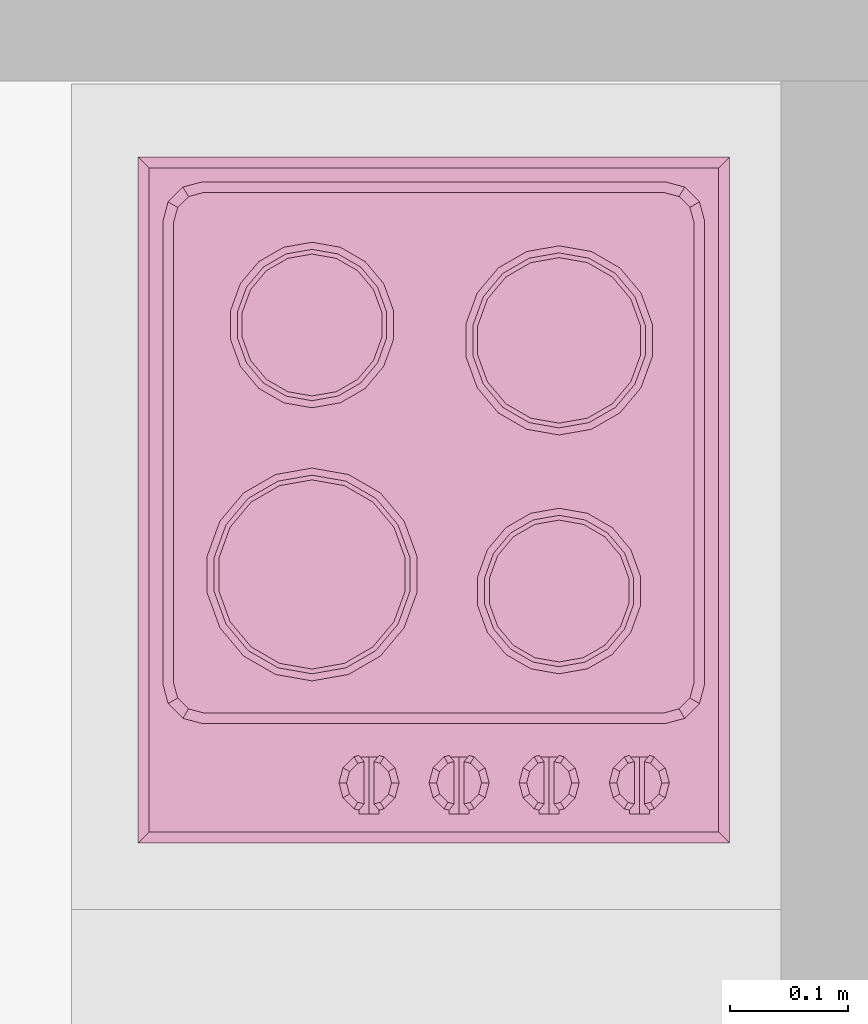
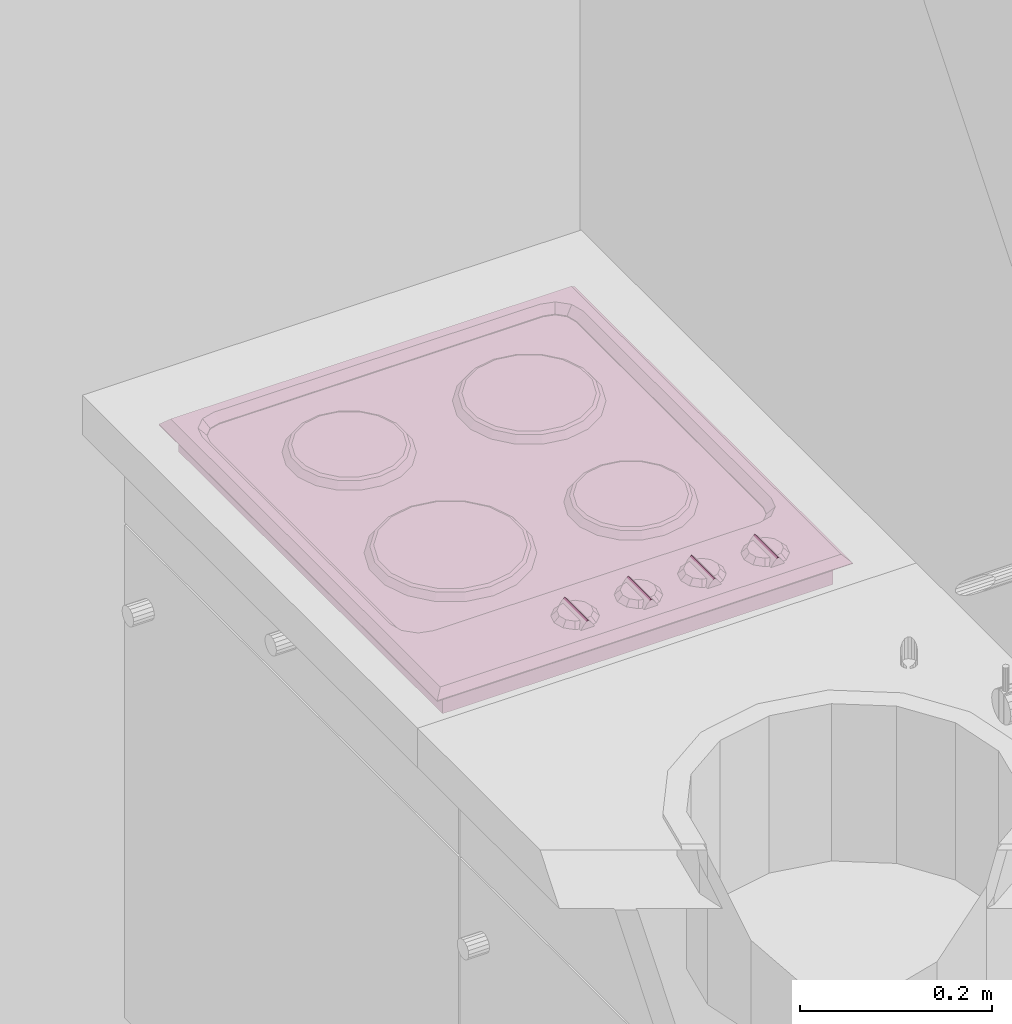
# One storey, part 164 of 172: 1 furnishing.
"""IFC2X3 building model written with IfcOpenShell, lengths in millimetres."""

import ifcopenshell
import ifcopenshell.guid

model = None  # the IFC model being written
_history = None  # IfcOwnerHistory: only IFC2X3 demands one
_inside = {}  # id of a spatial element -> (the spatial element, [elements in it])
_under = {}  # id of a project, library or spatial element -> (it, [spatial elements below it])
_declared = {}  # id of a project -> (the project, [libraries it declares])
_typed = {}  # id of a type object -> (the type object, [elements of that type])
_made_of = {}  # id of a material, layer set ... -> (it, [elements and type objects made of it])


def new_model(schema):
    """Start an empty IFC model of exactly this schema.

    Asked for "IFC4X3", IfcOpenShell would pick the latest addendum, in which some entities
    have other attributes; the version numbers below select the first issue.
    IFC2X3 requires an IfcOwnerHistory on every rooted entity: one is made here for all.
    """
    global model, _history
    if schema == "IFC4X3":
        model = ifcopenshell.file(schema_version=(4, 3, 0, 0))
    else:
        model = ifcopenshell.file(schema=schema)
    _inside.clear()
    _under.clear()
    _declared.clear()
    _typed.clear()
    _made_of.clear()
    _history = None
    if model.schema == "IFC2X3":
        org = make("IfcOrganization", Name="unknown")
        user = make(
            "IfcPersonAndOrganization",
            ThePerson=make("IfcPerson", FamilyName="unknown"),
            TheOrganization=org,
        )
        app = make(
            "IfcApplication",
            ApplicationDeveloper=org,
            Version="unknown",
            ApplicationFullName="unknown",
            ApplicationIdentifier="unknown",
        )
        _history = make(
            "IfcOwnerHistory",
            OwningUser=user,
            OwningApplication=app,
            ChangeAction="ADDED",
            CreationDate=0,
        )
    return model


def make(cls, **values):
    """One entity of the class cls with the attributes given. An attribute that is None is left unset."""
    return model.create_entity(
        cls, **{name: value for name, value in values.items() if value is not None}
    )


def entity(cls, *values):
    """Any entity or typed value of the class cls, its attributes in the order of the schema. None: left unset."""
    e = model.create_entity(cls)
    for i, value in enumerate(values):
        if value is not None:
            e[i] = value
    return e


def rooted(cls, **values):
    """An entity with a GlobalId (a new one), such as an element, a storey or a relation."""
    return make(cls, GlobalId=ifcopenshell.guid.new(), OwnerHistory=_history, **values)


def si_unit(unit_type, name, prefix=None):
    """IfcSIUnit, for example si_unit("LENGTHUNIT", "METRE", prefix="MILLI")."""
    return make("IfcSIUnit", UnitType=unit_type, Prefix=prefix, Name=name)


def converted_unit(unit_type, name, factor, base, dimensions=None, offset=None):
    """IfcConversionBasedUnit, such as the inch: factor (a typed value) times the base unit."""
    return make(
        "IfcConversionBasedUnit"
        if offset is None
        else "IfcConversionBasedUnitWithOffset",
        ConversionOffset=offset,
        Dimensions=None
        if dimensions is None
        else entity("IfcDimensionalExponents", *dimensions),
        UnitType=unit_type,
        Name=name,
        ConversionFactor=make(
            "IfcMeasureWithUnit", ValueComponent=factor, UnitComponent=base
        ),
    )


def money_unit(currency):
    """IfcMonetaryUnit."""
    return make("IfcMonetaryUnit", Currency=currency)


def assignment(units):
    """IfcUnitAssignment: the units of a project."""
    return None if units is None else make("IfcUnitAssignment", Units=units)


def point(xyz):
    """IfcCartesianPoint."""
    return None if xyz is None else make("IfcCartesianPoint", Coordinates=xyz)


def direction(xyz):
    """IfcDirection."""
    return None if xyz is None else make("IfcDirection", DirectionRatios=xyz)


def frame(location, z_axis=None, x_axis=None):
    """IfcAxis2Placement3D, a coordinate frame: its origin and axes. An axis left out is left unset."""
    return make(
        "IfcAxis2Placement3D",
        Location=point(location),
        Axis=direction(z_axis),
        RefDirection=direction(x_axis),
    )


def origin_with_axes():
    """The frame at (0, 0, 0) with the z axis (0, 0, 1) and the x axis (1, 0, 0) written out."""
    return frame((0.0, 0.0, 0.0), z_axis=(0.0, 0.0, 1.0), x_axis=(1.0, 0.0, 0.0))


def place(relative_to, where):
    """IfcLocalPlacement: puts the frame where relative to a parent placement (None: the world)."""
    return make(
        "IfcLocalPlacement", PlacementRelTo=relative_to, RelativePlacement=where
    )


def context(
    kind, dimensions, precision=None, world=None, true_north=None, identifier=None
):
    """IfcGeometricRepresentationContext, for example the 3D "Model" context."""
    return make(
        "IfcGeometricRepresentationContext",
        ContextIdentifier=identifier,
        ContextType=kind,
        CoordinateSpaceDimension=dimensions,
        Precision=precision,
        WorldCoordinateSystem=world,
        TrueNorth=true_north,
    )


def subcontext(parent, identifier, kind, view, scale=None):
    """IfcGeometricRepresentationSubContext, for example "Body" below "Model"."""
    return make(
        "IfcGeometricRepresentationSubContext",
        ContextIdentifier=identifier,
        ContextType=kind,
        ParentContext=parent,
        TargetScale=scale,
        TargetView=view,
    )


def project(units=None, contexts=None):
    """IfcProject with its units and contexts."""
    return rooted(
        "IfcProject",
        Name="project",
        RepresentationContexts=contexts,
        UnitsInContext=assignment(units),
    )


def spatial(cls, under=None, at=None, **own):
    """A site, building, storey or space (cls), placed at a placement, below another one or the project."""
    s = rooted(cls, ObjectPlacement=at, **own)
    if under is not None:
        _under.setdefault(under.id(), (under, []))[1].append(s)
    return s


def faces_of(points, faces, orient=None, outer=None):
    """IfcFace entities. A face is a list of loops; a loop is a list of indices into points, from 0.

    orient and outer hold one flag for each loop. By default every Orientation is true, the
    first loop of a face is its IfcFaceOuterBound and the others are IfcFaceBound.
    """
    made = []
    for i, loops in enumerate(faces):
        bounds = []
        for j, loop in enumerate(loops):
            is_outer = j == 0 if outer is None else outer[i][j]
            bounds.append(
                make(
                    "IfcFaceOuterBound" if is_outer else "IfcFaceBound",
                    Bound=make("IfcPolyLoop", Polygon=[points[k] for k in loop]),
                    Orientation=True if orient is None else orient[i][j],
                )
            )
        made.append(make("IfcFace", Bounds=bounds))
    return made


def faceted_brep(points, faces, orient=None, outer=None, voids=None):
    """IfcFacetedBrep: a solid bounded by flat faces; with voids (closed shells), ...WithVoids."""
    shared = [point(p) for p in points]
    hull = make("IfcClosedShell", CfsFaces=faces_of(shared, faces, orient, outer))
    if voids is None:
        return make("IfcFacetedBrep", Outer=hull)
    return make(
        "IfcFacetedBrepWithVoids",
        Outer=hull,
        Voids=[
            make(cls, CfsFaces=faces_of(shared, fs, o, b)) for cls, fs, o, b in voids
        ],
    )


def shape(context_of_items, identifier, shape_type, items):
    """IfcShapeRepresentation: the items that make up one representation, for example the "Body"."""
    return make(
        "IfcShapeRepresentation",
        ContextOfItems=context_of_items,
        RepresentationIdentifier=identifier,
        RepresentationType=shape_type,
        Items=items,
    )


def source(mapping_origin, context_of_items, identifier, shape_type, items):
    """IfcRepresentationMap: a shape defined once, which mapped items show again and again."""
    return make(
        "IfcRepresentationMap",
        MappingOrigin=mapping_origin,
        MappedRepresentation=shape(context_of_items, identifier, shape_type, items),
    )


def transform(
    local_origin,
    x_axis=None,
    y_axis=None,
    z_axis=None,
    scale=None,
    scale2=None,
    scale3=None,
    uniform=True,
):
    """IfcCartesianTransformationOperator3D, or its non-uniform kind. x_axis, y_axis, z_axis: its Axis1, 2, 3."""
    if uniform:
        return make(
            "IfcCartesianTransformationOperator3D",
            Axis1=direction(x_axis),
            Axis2=direction(y_axis),
            LocalOrigin=point(local_origin),
            Scale=scale,
            Axis3=direction(z_axis),
        )
    return make(
        "IfcCartesianTransformationOperator3DnonUniform",
        Axis1=direction(x_axis),
        Axis2=direction(y_axis),
        LocalOrigin=point(local_origin),
        Scale=scale,
        Axis3=direction(z_axis),
        Scale2=scale2,
        Scale3=scale3,
    )


def mapped(mapping_source, mapping_target):
    """IfcMappedItem: shows the shape of a source again, moved by a transform."""
    return make(
        "IfcMappedItem", MappingSource=mapping_source, MappingTarget=mapping_target
    )


def material(Name=None, Category=None):
    """IfcMaterial."""
    return make("IfcMaterial", Name=Name, Category=Category)


def material_list(materials):
    """IfcMaterialList."""
    return make("IfcMaterialList", Materials=materials)


def made_of(thing, what):
    """Note that an element or type object is made of a material, layer set ...; save() writes the relation."""
    if what is not None:
        _made_of.setdefault(what.id(), (what, []))[1].append(thing)
    return thing


def type_object(cls, material=None, **own):
    """A type object (cls), such as IfcWallType, which elements share."""
    return made_of(rooted(cls, **own), material)


def element(
    cls,
    number,
    at=None,
    inside=None,
    cuts=None,
    type_object=None,
    material=None,
    context=None,
    identifier="Body",
    shape_type=None,
    held_by="IfcProductDefinitionShape",
    body=None,
    shapes=None,
    **own,
):
    """One element of the class cls, such as IfcWall. Its Tag is "e" and its number.

    at: its placement. inside: the storey or other place that contains it. cuts: it is an
    opening in that element (IfcRelVoidsElement). A single representation is given by context,
    identifier, shape_type and body (its items); several are given by shapes. held_by: the class
    of the entity that holds the representations. save() writes the other relations.
    """
    e = rooted(cls, Tag="e%d" % number, ObjectPlacement=at, **own)
    if body is not None:
        shapes = [shape(context, identifier, shape_type, body)]
    if shapes is not None:
        e.Representation = make(held_by, Representations=shapes)
    if inside is not None:
        _inside.setdefault(inside.id(), (inside, []))[1].append(e)
    if cuts is not None:
        rooted(
            "IfcRelVoidsElement", RelatingBuildingElement=cuts, RelatedOpeningElement=e
        )
    if type_object is not None:
        _typed.setdefault(type_object.id(), (type_object, []))[1].append(e)
    return made_of(e, material)


def aggregate(whole, parts):
    """IfcRelAggregates: a whole, such as a stair, and the parts it consists of."""
    return rooted("IfcRelAggregates", RelatingObject=whole, RelatedObjects=parts)


def save(model, path):
    """Write the relations noted so far, then the file.

    IfcRelAggregates (storeys below a building ...), IfcRelContainedInSpatialStructure (elements
    in a storey), IfcRelDefinesByType, IfcRelAssociatesMaterial and IfcRelDeclares: one each for
    every whole, place, type object, material and project.
    """
    for whole, parts in _under.values():
        aggregate(whole, parts)
    for where, things in _inside.values():
        rooted(
            "IfcRelContainedInSpatialStructure",
            RelatedElements=things,
            RelatingStructure=where,
        )
    for kind, things in _typed.values():
        rooted("IfcRelDefinesByType", RelatedObjects=things, RelatingType=kind)
    for what, things in _made_of.values():
        rooted("IfcRelAssociatesMaterial", RelatedObjects=things, RelatingMaterial=what)
    for by, libraries in _declared.values():
        rooted("IfcRelDeclares", RelatingContext=by, RelatedDefinitions=libraries)
    model.write(path)


model = new_model("IFC2X3")

# Units and contexts
model_context = context("Model", 3, precision=1e-05, world=origin_with_axes(), true_north=direction((0.0, 1.0)))
body_context = subcontext(model_context, "Body", "Model", "MODEL_VIEW")
ifc_project = project(units=[si_unit("LENGTHUNIT", "METRE", prefix="MILLI"), si_unit("AREAUNIT", "SQUARE_METRE"), si_unit("VOLUMEUNIT", "CUBIC_METRE"), converted_unit("PLANEANGLEUNIT", "DEGREE", entity("IfcPlaneAngleMeasure", 0.0174532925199), si_unit("PLANEANGLEUNIT", "RADIAN"), dimensions=[0, 0, 0, 0, 0, 0, 0]), si_unit("SOLIDANGLEUNIT", "STERADIAN"), money_unit("USD"), converted_unit("TIMEUNIT", "Year", entity("IfcTimeMeasure", 31556926.0), si_unit("TIMEUNIT", "SECOND"), dimensions=[0, 0, 0, 0, 0, 0, 0]), si_unit("MASSUNIT", "GRAM"), si_unit("THERMODYNAMICTEMPERATUREUNIT", "DEGREE_CELSIUS"), si_unit("LUMINOUSINTENSITYUNIT", "LUMEN")], contexts=[model_context])

# Site, building, storey
site_placement = place(None, origin_with_axes())
site = spatial("IfcSite", under=ifc_project, at=site_placement, Name="Site", CompositionType="ELEMENT")
building_placement = place(site_placement, origin_with_axes())
building = spatial("IfcBuilding", under=site, at=building_placement, Name="Building", CompositionType="ELEMENT")
storey_placement = place(building_placement, frame((0.0, 0.0, 3200.0), z_axis=(0.0, 0.0, 1.0), x_axis=(1.0, 0.0, 0.0)))
storey = spatial("IfcBuildingStorey", under=building, at=storey_placement, Name="3KORRUS", CompositionType="ELEMENT", Elevation=3200.0)

# Furnishing
ifc_material = material(Name="Background")
ifc_material_list = material_list([ifc_material])
furnishing_element_type = type_object("IfcFurnishingElementType", Name="Cooktops Electric 19")
shared_shape = source(origin_with_axes(), body_context, "Body", "Brep", [
    faceted_brep([(-230.175, 116.638, 900.0), (-224.537, 118.691, 908.0), (-229.0, 144.0, 908.0), (-235.0, 144.0, 900.0), (-216.284, 92.577, 900.0), (-211.687, 96.434, 908.0), (-192.0, 79.914, 908.0), (-167.85, 71.124, 908.0), (-142.15, 71.124, 908.0), (-118.0, 79.914, 908.0), (-98.313, 96.434, 908.0), (-85.463, 118.691, 908.0), (-81.0, 144.0, 908.0), (-85.463, 169.309, 908.0), (-98.313, 191.566, 908.0), (-118.0, 208.086, 908.0), (-142.15, 216.876, 908.0), (-167.85, 216.876, 908.0), (-192.0, 208.086, 908.0), (-211.687, 191.566, 908.0), (-224.537, 169.309, 908.0), (-230.175, 171.362, 900.0), (-216.284, 195.423, 900.0), (-195.0, 213.282, 900.0), (-168.892, 222.785, 900.0), (-141.108, 222.785, 900.0), (-115.0, 213.282, 900.0), (-93.716, 195.423, 900.0), (-79.825, 171.362, 900.0), (-75.0, 144.0, 900.0), (-79.825, 116.638, 900.0), (-93.716, 92.577, 900.0), (-115.0, 74.718, 900.0), (-141.108, 65.215, 900.0), (-168.892, 65.215, 900.0), (-195.0, 74.718, 900.0)], [[[0, 1, 2, 3]], [[4, 5, 1, 0]], [[1, 5, 6, 7, 8, 9, 10, 11, 12, 13, 14, 15, 16, 17, 18, 19, 20, 2]], [[3, 2, 20, 21]], [[0, 3, 21, 22, 23, 24, 25, 26, 27, 28, 29, 30, 31, 32, 33, 34, 35, 4]], [[35, 6, 5, 4]], [[34, 7, 6, 35]], [[33, 8, 7, 34]], [[32, 9, 8, 33]], [[31, 10, 9, 32]], [[30, 11, 10, 31]], [[29, 12, 11, 30]], [[28, 13, 12, 29]], [[27, 14, 13, 28]], [[26, 15, 14, 27]], [[25, 16, 15, 26]], [[24, 17, 16, 25]], [[23, 18, 17, 24]], [[22, 19, 18, 23]], [[21, 20, 19, 22]]]),
    faceted_brep([(-224.537, 118.691, 908.0), (-220.778, 120.059, 910.0), (-225.0, 144.0, 910.0), (-229.0, 144.0, 908.0), (-211.687, 96.434, 908.0), (-208.623, 99.005, 910.0), (-190.0, 83.378, 910.0), (-167.155, 75.063, 910.0), (-142.845, 75.063, 910.0), (-120.0, 83.378, 910.0), (-101.377, 99.005, 910.0), (-89.222, 120.059, 910.0), (-85.0, 144.0, 910.0), (-89.222, 167.941, 910.0), (-101.377, 188.995, 910.0), (-120.0, 204.622, 910.0), (-142.845, 212.937, 910.0), (-167.155, 212.937, 910.0), (-190.0, 204.622, 910.0), (-208.623, 188.995, 910.0), (-220.778, 167.941, 910.0), (-224.537, 169.309, 908.0), (-211.687, 191.566, 908.0), (-192.0, 208.086, 908.0), (-167.85, 216.876, 908.0), (-142.15, 216.876, 908.0), (-118.0, 208.086, 908.0), (-98.313, 191.566, 908.0), (-85.463, 169.309, 908.0), (-81.0, 144.0, 908.0), (-85.463, 118.691, 908.0), (-98.313, 96.434, 908.0), (-118.0, 79.914, 908.0), (-142.15, 71.124, 908.0), (-167.85, 71.124, 908.0), (-192.0, 79.914, 908.0)], [[[0, 1, 2, 3]], [[4, 5, 1, 0]], [[1, 5, 6, 7, 8, 9, 10, 11, 12, 13, 14, 15, 16, 17, 18, 19, 20, 2]], [[3, 2, 20, 21]], [[0, 3, 21, 22, 23, 24, 25, 26, 27, 28, 29, 30, 31, 32, 33, 34, 35, 4]], [[35, 6, 5, 4]], [[34, 7, 6, 35]], [[33, 8, 7, 34]], [[32, 9, 8, 33]], [[31, 10, 9, 32]], [[30, 11, 10, 31]], [[29, 12, 11, 30]], [[28, 13, 12, 29]], [[27, 14, 13, 28]], [[26, 15, 14, 27]], [[25, 16, 15, 26]], [[24, 17, 16, 25]], [[23, 18, 17, 24]], [[22, 19, 18, 23]], [[21, 20, 19, 22]]]),
    faceted_brep([(-432.778, 120.059, 900.0), (-427.14, 122.111, 908.0), (-431.0, 144.0, 908.0), (-437.0, 144.0, 900.0), (-420.623, 99.005, 900.0), (-416.027, 102.862, 908.0), (-399.0, 88.574, 908.0), (-378.113, 80.972, 908.0), (-355.887, 80.972, 908.0), (-335.0, 88.574, 908.0), (-317.973, 102.862, 908.0), (-306.86, 122.111, 908.0), (-303.0, 144.0, 908.0), (-306.86, 165.889, 908.0), (-317.973, 185.138, 908.0), (-335.0, 199.426, 908.0), (-355.887, 207.028, 908.0), (-378.113, 207.028, 908.0), (-399.0, 199.426, 908.0), (-416.027, 185.138, 908.0), (-427.14, 165.889, 908.0), (-432.778, 167.941, 900.0), (-420.623, 188.995, 900.0), (-402.0, 204.622, 900.0), (-379.155, 212.937, 900.0), (-354.845, 212.937, 900.0), (-332.0, 204.622, 900.0), (-313.377, 188.995, 900.0), (-301.222, 167.941, 900.0), (-297.0, 144.0, 900.0), (-301.222, 120.059, 900.0), (-313.377, 99.005, 900.0), (-332.0, 83.378, 900.0), (-354.845, 75.063, 900.0), (-379.155, 75.063, 900.0), (-402.0, 83.378, 900.0)], [[[0, 1, 2, 3]], [[4, 5, 1, 0]], [[1, 5, 6, 7, 8, 9, 10, 11, 12, 13, 14, 15, 16, 17, 18, 19, 20, 2]], [[3, 2, 20, 21]], [[0, 3, 21, 22, 23, 24, 25, 26, 27, 28, 29, 30, 31, 32, 33, 34, 35, 4]], [[35, 6, 5, 4]], [[34, 7, 6, 35]], [[33, 8, 7, 34]], [[32, 9, 8, 33]], [[31, 10, 9, 32]], [[30, 11, 10, 31]], [[29, 12, 11, 30]], [[28, 13, 12, 29]], [[27, 14, 13, 28]], [[26, 15, 14, 27]], [[25, 16, 15, 26]], [[24, 17, 16, 25]], [[23, 18, 17, 24]], [[22, 19, 18, 23]], [[21, 20, 19, 22]]]),
    faceted_brep([(-427.14, 122.111, 908.0), (-423.382, 123.479, 910.0), (-427.0, 144.0, 910.0), (-431.0, 144.0, 908.0), (-416.027, 102.862, 908.0), (-412.963, 105.433, 910.0), (-397.0, 92.038, 910.0), (-377.419, 84.912, 910.0), (-356.581, 84.912, 910.0), (-337.0, 92.038, 910.0), (-321.037, 105.433, 910.0), (-310.618, 123.479, 910.0), (-307.0, 144.0, 910.0), (-310.618, 164.521, 910.0), (-321.037, 182.567, 910.0), (-337.0, 195.962, 910.0), (-356.581, 203.088, 910.0), (-377.419, 203.088, 910.0), (-397.0, 195.962, 910.0), (-412.963, 182.567, 910.0), (-423.382, 164.521, 910.0), (-427.14, 165.889, 908.0), (-416.027, 185.138, 908.0), (-399.0, 199.426, 908.0), (-378.113, 207.028, 908.0), (-355.887, 207.028, 908.0), (-335.0, 199.426, 908.0), (-317.973, 185.138, 908.0), (-306.86, 165.889, 908.0), (-303.0, 144.0, 908.0), (-306.86, 122.111, 908.0), (-317.973, 102.862, 908.0), (-335.0, 88.574, 908.0), (-355.887, 80.972, 908.0), (-378.113, 80.972, 908.0), (-399.0, 88.574, 908.0)], [[[0, 1, 2, 3]], [[4, 5, 1, 0]], [[1, 5, 6, 7, 8, 9, 10, 11, 12, 13, 14, 15, 16, 17, 18, 19, 20, 2]], [[3, 2, 20, 21]], [[0, 3, 21, 22, 23, 24, 25, 26, 27, 28, 29, 30, 31, 32, 33, 34, 35, 4]], [[35, 6, 5, 4]], [[34, 7, 6, 35]], [[33, 8, 7, 34]], [[32, 9, 8, 33]], [[31, 10, 9, 32]], [[30, 11, 10, 31]], [[29, 12, 11, 30]], [[28, 13, 12, 29]], [[27, 14, 13, 28]], [[26, 15, 14, 27]], [[25, 16, 15, 26]], [[24, 17, 16, 25]], [[23, 18, 17, 24]], [[22, 19, 18, 23]], [[21, 20, 19, 22]]]),
    faceted_brep([(-437.572, 322.218, 900.0), (-431.934, 324.27, 908.0), (-437.0, 353.0, 908.0), (-443.0, 353.0, 900.0), (-421.944, 295.149, 900.0), (-417.348, 299.006, 908.0), (-395.0, 280.254, 908.0), (-367.586, 270.276, 908.0), (-338.414, 270.276, 908.0), (-311.0, 280.254, 908.0), (-288.652, 299.006, 908.0), (-274.066, 324.27, 908.0), (-269.0, 353.0, 908.0), (-274.066, 381.73, 908.0), (-288.652, 406.994, 908.0), (-311.0, 425.746, 908.0), (-338.414, 435.724, 908.0), (-367.586, 435.724, 908.0), (-395.0, 425.746, 908.0), (-417.348, 406.994, 908.0), (-431.934, 381.73, 908.0), (-437.572, 383.782, 900.0), (-421.944, 410.851, 900.0), (-398.0, 430.942, 900.0), (-368.628, 441.633, 900.0), (-337.372, 441.633, 900.0), (-308.0, 430.942, 900.0), (-284.056, 410.851, 900.0), (-268.428, 383.782, 900.0), (-263.0, 353.0, 900.0), (-268.428, 322.218, 900.0), (-284.056, 295.149, 900.0), (-308.0, 275.058, 900.0), (-337.372, 264.367, 900.0), (-368.628, 264.367, 900.0), (-398.0, 275.058, 900.0)], [[[0, 1, 2, 3]], [[4, 5, 1, 0]], [[1, 5, 6, 7, 8, 9, 10, 11, 12, 13, 14, 15, 16, 17, 18, 19, 20, 2]], [[3, 2, 20, 21]], [[0, 3, 21, 22, 23, 24, 25, 26, 27, 28, 29, 30, 31, 32, 33, 34, 35, 4]], [[35, 6, 5, 4]], [[34, 7, 6, 35]], [[33, 8, 7, 34]], [[32, 9, 8, 33]], [[31, 10, 9, 32]], [[30, 11, 10, 31]], [[29, 12, 11, 30]], [[28, 13, 12, 29]], [[27, 14, 13, 28]], [[26, 15, 14, 27]], [[25, 16, 15, 26]], [[24, 17, 16, 25]], [[23, 18, 17, 24]], [[22, 19, 18, 23]], [[21, 20, 19, 22]]]),
    faceted_brep([(-431.934, 324.27, 908.0), (-428.175, 325.638, 910.0), (-433.0, 353.0, 910.0), (-437.0, 353.0, 908.0), (-417.348, 299.006, 908.0), (-414.284, 301.577, 910.0), (-393.0, 283.718, 910.0), (-366.892, 274.215, 910.0), (-339.108, 274.215, 910.0), (-313.0, 283.718, 910.0), (-291.716, 301.577, 910.0), (-277.825, 325.638, 910.0), (-273.0, 353.0, 910.0), (-277.825, 380.362, 910.0), (-291.716, 404.423, 910.0), (-313.0, 422.282, 910.0), (-339.108, 431.785, 910.0), (-366.892, 431.785, 910.0), (-393.0, 422.282, 910.0), (-414.284, 404.423, 910.0), (-428.175, 380.362, 910.0), (-431.934, 381.73, 908.0), (-417.348, 406.994, 908.0), (-395.0, 425.746, 908.0), (-367.586, 435.724, 908.0), (-338.414, 435.724, 908.0), (-311.0, 425.746, 908.0), (-288.652, 406.994, 908.0), (-274.066, 381.73, 908.0), (-269.0, 353.0, 908.0), (-274.066, 324.27, 908.0), (-288.652, 299.006, 908.0), (-311.0, 280.254, 908.0), (-338.414, 270.276, 908.0), (-367.586, 270.276, 908.0), (-395.0, 280.254, 908.0)], [[[0, 1, 2, 3]], [[4, 5, 1, 0]], [[1, 5, 6, 7, 8, 9, 10, 11, 12, 13, 14, 15, 16, 17, 18, 19, 20, 2]], [[3, 2, 20, 21]], [[0, 3, 21, 22, 23, 24, 25, 26, 27, 28, 29, 30, 31, 32, 33, 34, 35, 4]], [[35, 6, 5, 4]], [[34, 7, 6, 35]], [[33, 8, 7, 34]], [[32, 9, 8, 33]], [[31, 10, 9, 32]], [[30, 11, 10, 31]], [[29, 12, 11, 30]], [[28, 13, 12, 29]], [[27, 14, 13, 28]], [[26, 15, 14, 27]], [[25, 16, 15, 26]], [[24, 17, 16, 25]], [[23, 18, 17, 24]], [[22, 19, 18, 23]], [[21, 20, 19, 22]]]),
    faceted_brep([(-207.778, 329.059, 900.0), (-202.14, 331.111, 908.0), (-206.0, 353.0, 908.0), (-212.0, 353.0, 900.0), (-195.623, 308.005, 900.0), (-191.027, 311.862, 908.0), (-174.0, 297.574, 908.0), (-153.113, 289.972, 908.0), (-130.887, 289.972, 908.0), (-110.0, 297.574, 908.0), (-92.973, 311.862, 908.0), (-81.86, 331.111, 908.0), (-78.0, 353.0, 908.0), (-81.86, 374.889, 908.0), (-92.973, 394.138, 908.0), (-110.0, 408.426, 908.0), (-130.887, 416.028, 908.0), (-153.113, 416.028, 908.0), (-174.0, 408.426, 908.0), (-191.027, 394.138, 908.0), (-202.14, 374.889, 908.0), (-207.778, 376.941, 900.0), (-195.623, 397.995, 900.0), (-177.0, 413.622, 900.0), (-154.155, 421.937, 900.0), (-129.845, 421.937, 900.0), (-107.0, 413.622, 900.0), (-88.377, 397.995, 900.0), (-76.222, 376.941, 900.0), (-72.0, 353.0, 900.0), (-76.222, 329.059, 900.0), (-88.377, 308.005, 900.0), (-107.0, 292.378, 900.0), (-129.845, 284.063, 900.0), (-154.155, 284.063, 900.0), (-177.0, 292.378, 900.0)], [[[0, 1, 2, 3]], [[4, 5, 1, 0]], [[1, 5, 6, 7, 8, 9, 10, 11, 12, 13, 14, 15, 16, 17, 18, 19, 20, 2]], [[3, 2, 20, 21]], [[0, 3, 21, 22, 23, 24, 25, 26, 27, 28, 29, 30, 31, 32, 33, 34, 35, 4]], [[35, 6, 5, 4]], [[34, 7, 6, 35]], [[33, 8, 7, 34]], [[32, 9, 8, 33]], [[31, 10, 9, 32]], [[30, 11, 10, 31]], [[29, 12, 11, 30]], [[28, 13, 12, 29]], [[27, 14, 13, 28]], [[26, 15, 14, 27]], [[25, 16, 15, 26]], [[24, 17, 16, 25]], [[23, 18, 17, 24]], [[22, 19, 18, 23]], [[21, 20, 19, 22]]]),
    faceted_brep([(-202.14, 331.111, 908.0), (-198.382, 332.479, 910.0), (-202.0, 353.0, 910.0), (-206.0, 353.0, 908.0), (-191.027, 311.862, 908.0), (-187.963, 314.433, 910.0), (-172.0, 301.038, 910.0), (-152.419, 293.912, 910.0), (-131.581, 293.912, 910.0), (-112.0, 301.038, 910.0), (-96.037, 314.433, 910.0), (-85.618, 332.479, 910.0), (-82.0, 353.0, 910.0), (-85.618, 373.521, 910.0), (-96.037, 391.567, 910.0), (-112.0, 404.962, 910.0), (-131.581, 412.088, 910.0), (-152.419, 412.088, 910.0), (-172.0, 404.962, 910.0), (-187.963, 391.567, 910.0), (-198.382, 373.521, 910.0), (-202.14, 374.889, 908.0), (-191.027, 394.138, 908.0), (-174.0, 408.426, 908.0), (-153.113, 416.028, 908.0), (-130.887, 416.028, 908.0), (-110.0, 408.426, 908.0), (-92.973, 394.138, 908.0), (-81.86, 374.889, 908.0), (-78.0, 353.0, 908.0), (-81.86, 331.111, 908.0), (-92.973, 311.862, 908.0), (-110.0, 297.574, 908.0), (-130.887, 289.972, 908.0), (-153.113, 289.972, 908.0), (-174.0, 297.574, 908.0)], [[[0, 1, 2, 3]], [[4, 5, 1, 0]], [[1, 5, 6, 7, 8, 9, 10, 11, 12, 13, 14, 15, 16, 17, 18, 19, 20, 2]], [[3, 2, 20, 21]], [[0, 3, 21, 22, 23, 24, 25, 26, 27, 28, 29, 30, 31, 32, 33, 34, 35, 4]], [[35, 6, 5, 4]], [[34, 7, 6, 35]], [[33, 8, 7, 34]], [[32, 9, 8, 33]], [[31, 10, 9, 32]], [[30, 11, 10, 31]], [[29, 12, 11, 30]], [[28, 13, 12, 29]], [[27, 14, 13, 28]], [[26, 15, 14, 27]], [[25, 16, 15, 26]], [[24, 17, 16, 25]], [[23, 18, 17, 24]], [[22, 19, 18, 23]], [[21, 20, 19, 22]]]),
    faceted_brep([(-506.069, 67.733, 910.0), (-507.203, 63.5, 910.0), (-516.5, 54.203, 910.0), (-529.2, 50.8, 910.0), (-541.9, 54.203, 910.0), (-551.197, 63.5, 910.0), (-552.331, 67.733, 910.0), (-511.284, 71.967, 916.35), (-512.702, 66.675, 916.35), (-519.675, 59.702, 916.35), (-529.2, 57.15, 916.35), (-538.725, 59.702, 916.35), (-545.698, 66.675, 916.35), (-547.116, 71.967, 916.35)], [[[0, 1, 2, 3, 4, 5, 6]], [[7, 8, 1, 0]], [[9, 2, 1, 8]], [[10, 3, 2, 9]], [[11, 4, 3, 10]], [[12, 5, 4, 11]], [[6, 5, 12, 13]], [[13, 7, 0, 6]], [[13, 12, 11, 10, 9, 8, 7]]]),
    faceted_brep([(-547.116, 80.433, 916.35), (-545.698, 85.725, 916.35), (-551.197, 88.9, 910.0), (-552.331, 84.667, 910.0), (-511.284, 80.433, 916.35), (-512.702, 85.725, 916.35), (-519.675, 92.698, 916.35), (-529.2, 95.25, 916.35), (-538.725, 92.698, 916.35), (-541.9, 98.197, 910.0), (-529.2, 101.6, 910.0), (-516.5, 98.197, 910.0), (-507.203, 88.9, 910.0), (-506.069, 84.667, 910.0)], [[[0, 1, 2, 3]], [[4, 5, 6, 7, 8, 1, 0]], [[8, 9, 2, 1]], [[3, 2, 9, 10, 11, 12, 13]], [[13, 4, 0, 3]], [[13, 12, 5, 4]], [[5, 12, 11, 6]], [[6, 11, 10, 7]], [[7, 10, 9, 8]]]),
    faceted_brep([(-555.658, 84.667, 910.0), (-507.398, 84.667, 910.0), (-507.398, 67.733, 910.0), (-555.658, 67.733, 910.0), (-555.658, 80.433, 916.35), (-507.398, 80.433, 916.35), (-507.398, 76.2, 920.583), (-507.398, 71.967, 916.35), (-555.658, 71.967, 916.35), (-555.658, 76.2, 920.583)], [[[0, 1, 2, 3]], [[4, 5, 1, 0]], [[1, 5, 6, 7, 2]], [[3, 2, 7, 8]], [[0, 3, 8, 9, 4]], [[9, 6, 5, 4]], [[8, 7, 6, 9]]]),
    faceted_brep([(-506.069, 143.933, 910.0), (-507.203, 139.7, 910.0), (-516.5, 130.403, 910.0), (-529.2, 127.0, 910.0), (-541.9, 130.403, 910.0), (-551.197, 139.7, 910.0), (-552.331, 143.933, 910.0), (-511.284, 148.167, 916.35), (-512.702, 142.875, 916.35), (-519.675, 135.902, 916.35), (-529.2, 133.35, 916.35), (-538.725, 135.902, 916.35), (-545.698, 142.875, 916.35), (-547.116, 148.167, 916.35)], [[[0, 1, 2, 3, 4, 5, 6]], [[7, 8, 1, 0]], [[9, 2, 1, 8]], [[10, 3, 2, 9]], [[11, 4, 3, 10]], [[12, 5, 4, 11]], [[6, 5, 12, 13]], [[13, 7, 0, 6]], [[13, 12, 11, 10, 9, 8, 7]]]),
    faceted_brep([(-547.116, 156.633, 916.35), (-545.698, 161.925, 916.35), (-551.197, 165.1, 910.0), (-552.331, 160.867, 910.0), (-511.284, 156.633, 916.35), (-512.702, 161.925, 916.35), (-519.675, 168.898, 916.35), (-529.2, 171.45, 916.35), (-538.725, 168.898, 916.35), (-541.9, 174.397, 910.0), (-529.2, 177.8, 910.0), (-516.5, 174.397, 910.0), (-507.203, 165.1, 910.0), (-506.069, 160.867, 910.0)], [[[0, 1, 2, 3]], [[4, 5, 6, 7, 8, 1, 0]], [[8, 9, 2, 1]], [[3, 2, 9, 10, 11, 12, 13]], [[13, 4, 0, 3]], [[13, 12, 5, 4]], [[5, 12, 11, 6]], [[6, 11, 10, 7]], [[7, 10, 9, 8]]]),
    faceted_brep([(-555.658, 160.867, 910.0), (-507.398, 160.867, 910.0), (-507.398, 143.933, 910.0), (-555.658, 143.933, 910.0), (-555.658, 156.633, 916.35), (-507.398, 156.633, 916.35), (-507.398, 152.4, 920.583), (-507.398, 148.167, 916.35), (-555.658, 148.167, 916.35), (-555.658, 152.4, 920.583)], [[[0, 1, 2, 3]], [[4, 5, 1, 0]], [[1, 5, 6, 7, 2]], [[3, 2, 7, 8]], [[0, 3, 8, 9, 4]], [[9, 6, 5, 4]], [[8, 7, 6, 9]]]),
    faceted_brep([(-506.069, 220.133, 910.0), (-507.203, 215.9, 910.0), (-516.5, 206.603, 910.0), (-529.2, 203.2, 910.0), (-541.9, 206.603, 910.0), (-551.197, 215.9, 910.0), (-552.331, 220.133, 910.0), (-511.284, 224.367, 916.35), (-512.702, 219.075, 916.35), (-519.675, 212.102, 916.35), (-529.2, 209.55, 916.35), (-538.725, 212.102, 916.35), (-545.698, 219.075, 916.35), (-547.116, 224.367, 916.35)], [[[0, 1, 2, 3, 4, 5, 6]], [[7, 8, 1, 0]], [[9, 2, 1, 8]], [[10, 3, 2, 9]], [[11, 4, 3, 10]], [[12, 5, 4, 11]], [[6, 5, 12, 13]], [[13, 7, 0, 6]], [[13, 12, 11, 10, 9, 8, 7]]]),
    faceted_brep([(-547.116, 232.833, 916.35), (-545.698, 238.125, 916.35), (-551.197, 241.3, 910.0), (-552.331, 237.067, 910.0), (-511.284, 232.833, 916.35), (-512.702, 238.125, 916.35), (-519.675, 245.098, 916.35), (-529.2, 247.65, 916.35), (-538.725, 245.098, 916.35), (-541.9, 250.597, 910.0), (-529.2, 254.0, 910.0), (-516.5, 250.597, 910.0), (-507.203, 241.3, 910.0), (-506.069, 237.067, 910.0)], [[[0, 1, 2, 3]], [[4, 5, 6, 7, 8, 1, 0]], [[8, 9, 2, 1]], [[3, 2, 9, 10, 11, 12, 13]], [[13, 4, 0, 3]], [[13, 12, 5, 4]], [[5, 12, 11, 6]], [[6, 11, 10, 7]], [[7, 10, 9, 8]]]),
    faceted_brep([(-555.658, 237.067, 910.0), (-507.398, 237.067, 910.0), (-507.398, 220.133, 910.0), (-555.658, 220.133, 910.0), (-555.658, 232.833, 916.35), (-507.398, 232.833, 916.35), (-507.398, 228.6, 920.583), (-507.398, 224.367, 916.35), (-555.658, 224.367, 916.35), (-555.658, 228.6, 920.583)], [[[0, 1, 2, 3]], [[4, 5, 1, 0]], [[1, 5, 6, 7, 2]], [[3, 2, 7, 8]], [[0, 3, 8, 9, 4]], [[9, 6, 5, 4]], [[8, 7, 6, 9]]]),
    faceted_brep([(-506.069, 296.333, 910.0), (-507.203, 292.1, 910.0), (-516.5, 282.803, 910.0), (-529.2, 279.4, 910.0), (-541.9, 282.803, 910.0), (-551.197, 292.1, 910.0), (-552.331, 296.333, 910.0), (-511.284, 300.567, 916.35), (-512.702, 295.275, 916.35), (-519.675, 288.302, 916.35), (-529.2, 285.75, 916.35), (-538.725, 288.302, 916.35), (-545.698, 295.275, 916.35), (-547.116, 300.567, 916.35)], [[[0, 1, 2, 3, 4, 5, 6]], [[7, 8, 1, 0]], [[9, 2, 1, 8]], [[10, 3, 2, 9]], [[11, 4, 3, 10]], [[12, 5, 4, 11]], [[6, 5, 12, 13]], [[13, 7, 0, 6]], [[13, 12, 11, 10, 9, 8, 7]]]),
    faceted_brep([(-547.116, 309.033, 916.35), (-545.698, 314.325, 916.35), (-551.197, 317.5, 910.0), (-552.331, 313.267, 910.0), (-511.284, 309.033, 916.35), (-512.702, 314.325, 916.35), (-519.675, 321.298, 916.35), (-529.2, 323.85, 916.35), (-538.725, 321.298, 916.35), (-541.9, 326.797, 910.0), (-529.2, 330.2, 910.0), (-516.5, 326.797, 910.0), (-507.203, 317.5, 910.0), (-506.069, 313.267, 910.0)], [[[0, 1, 2, 3]], [[4, 5, 6, 7, 8, 1, 0]], [[8, 9, 2, 1]], [[3, 2, 9, 10, 11, 12, 13]], [[13, 4, 0, 3]], [[13, 12, 5, 4]], [[5, 12, 11, 6]], [[6, 11, 10, 7]], [[7, 10, 9, 8]]]),
    faceted_brep([(-555.658, 313.267, 910.0), (-507.398, 313.267, 910.0), (-507.398, 296.333, 910.0), (-555.658, 296.333, 910.0), (-555.658, 309.033, 916.35), (-507.398, 309.033, 916.35), (-507.398, 304.8, 920.583), (-507.398, 300.567, 916.35), (-555.658, 300.567, 916.35), (-555.658, 304.8, 920.583)], [[[0, 1, 2, 3]], [[4, 5, 1, 0]], [[1, 5, 6, 7, 2]], [[3, 2, 7, 8]], [[0, 3, 8, 9, 4]], [[9, 6, 5, 4]], [[8, 7, 6, 9]]]),
    faceted_brep([(-580.0, 0.0, 900.0), (-580.0, 500.0, 900.0), (0.0, 500.0, 900.0), (0.0, 0.0, 900.0), (-33.349, 457.5, 900.0), (-42.5, 466.651, 900.0), (-55.0, 470.0, 900.0), (-445.0, 470.0, 900.0), (-457.5, 466.651, 900.0), (-466.651, 457.5, 900.0), (-470.0, 445.0, 900.0), (-470.0, 55.0, 900.0), (-466.651, 42.5, 900.0), (-457.5, 33.349, 900.0), (-445.0, 30.0, 900.0), (-55.0, 30.0, 900.0), (-42.5, 33.349, 900.0), (-33.349, 42.5, 900.0), (-30.0, 55.0, 900.0), (-30.0, 445.0, 900.0), (-580.0, 0.0, 901.0), (-580.0, 500.0, 901.0), (0.0, 500.0, 901.0), (0.0, 0.0, 901.0), (-33.349, 457.5, 901.0), (-42.5, 466.651, 901.0), (-55.0, 470.0, 901.0), (-445.0, 470.0, 901.0), (-457.5, 466.651, 901.0), (-466.651, 457.5, 901.0), (-470.0, 445.0, 901.0), (-470.0, 55.0, 901.0), (-466.651, 42.5, 901.0), (-457.5, 33.349, 901.0), (-445.0, 30.0, 901.0), (-55.0, 30.0, 901.0), (-42.5, 33.349, 901.0), (-33.349, 42.5, 901.0), (-30.0, 55.0, 901.0), (-30.0, 445.0, 901.0), (-571.0, 9.0, 910.0), (-571.0, 491.0, 910.0), (-9.0, 491.0, 910.0), (-9.0, 9.0, 910.0), (-25.28, 462.159, 910.0), (-37.841, 474.72, 910.0), (-53.815, 479.0, 910.0), (-446.185, 479.0, 910.0), (-462.159, 474.72, 910.0), (-474.72, 462.159, 910.0), (-479.0, 446.185, 910.0), (-479.0, 53.815, 910.0), (-474.72, 37.841, 910.0), (-462.159, 25.28, 910.0), (-446.185, 21.0, 910.0), (-53.815, 21.0, 910.0), (-37.841, 25.28, 910.0), (-25.28, 37.841, 910.0), (-21.0, 53.815, 910.0), (-21.0, 446.185, 910.0)], [[[0, 1, 2, 3], [4, 5, 6, 7, 8, 9, 10, 11, 12, 13, 14, 15, 16, 17, 18, 19]], [[0, 20, 21, 1]], [[1, 21, 22, 2]], [[2, 22, 23, 3]], [[3, 23, 20, 0]], [[4, 24, 25, 5]], [[5, 25, 26, 6]], [[6, 26, 27, 7]], [[7, 27, 28, 8]], [[8, 28, 29, 9]], [[9, 29, 30, 10]], [[10, 30, 31, 11]], [[11, 31, 32, 12]], [[12, 32, 33, 13]], [[13, 33, 34, 14]], [[14, 34, 35, 15]], [[15, 35, 36, 16]], [[16, 36, 37, 17]], [[17, 37, 38, 18]], [[18, 38, 39, 19]], [[19, 39, 24, 4]], [[20, 40, 41, 21]], [[21, 41, 42, 22]], [[22, 42, 43, 23]], [[23, 43, 40, 20]], [[24, 44, 45, 25]], [[25, 45, 46, 26]], [[26, 46, 47, 27]], [[27, 47, 48, 28]], [[28, 48, 49, 29]], [[29, 49, 50, 30]], [[30, 50, 51, 31]], [[31, 51, 52, 32]], [[32, 52, 53, 33]], [[33, 53, 54, 34]], [[34, 54, 55, 35]], [[35, 55, 56, 36]], [[36, 56, 57, 37]], [[37, 57, 58, 38]], [[38, 58, 59, 39]], [[39, 59, 44, 24]], [[42, 41, 40, 43], [58, 57, 56, 55, 54, 53, 52, 51, 50, 49, 48, 47, 46, 45, 44, 59]]]),
    faceted_brep([(-565.0, 485.0, 870.0), (-565.0, 485.0, 900.0), (-15.0, 485.0, 900.0), (-15.0, 485.0, 870.0), (-565.0, 15.0, 870.0), (-565.0, 15.0, 900.0), (-15.0, 15.0, 900.0), (-15.0, 15.0, 870.0)], [[[0, 1, 2, 3]], [[4, 5, 1, 0]], [[1, 5, 6, 2]], [[3, 2, 6, 7]], [[0, 3, 7, 4]], [[7, 6, 5, 4]]]),
])
furnishing_placement = place(storey_placement, frame((-334.008307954, -13254.0733854, -20.0), z_axis=(0.0, 0.0, 1.0), x_axis=(0.0, 1.0, 0.0)))
element("IfcFurnishingElement", 1, at=furnishing_placement, inside=storey, type_object=furnishing_element_type, material=ifc_material_list, Name="FU - 007", context=body_context, shape_type="MappedRepresentation", body=[
    mapped(shared_shape, transform((0.0, 0.0, 0.0))),
])

save(model, "model.ifc")
